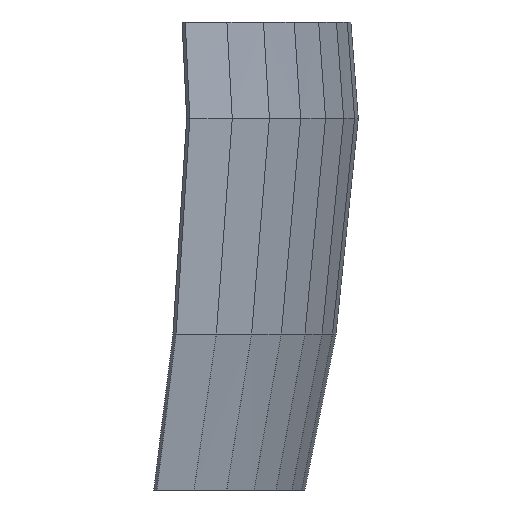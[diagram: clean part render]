
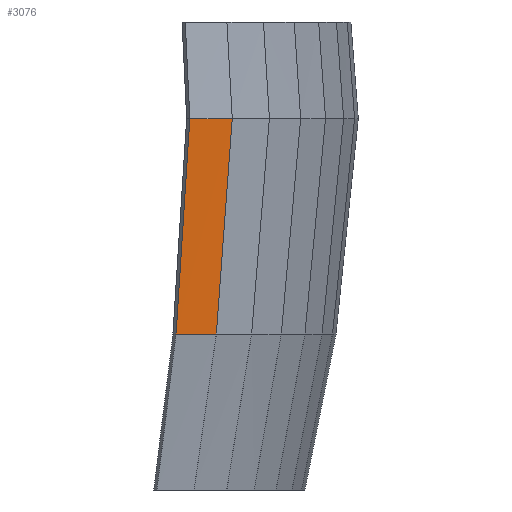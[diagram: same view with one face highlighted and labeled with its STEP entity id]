
A CAD part, left-side view. The second image highlights one B-rep face of the part: STEP entity #3076.
In plain terms, the highlighted free-form (B-spline) face has degree [1, 1] with [2, 2] control points.
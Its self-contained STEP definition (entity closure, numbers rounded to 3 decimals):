
#1018 = VERTEX_POINT('',#1019);
#1019 = CARTESIAN_POINT('',(-178.958,-199.465,175.));
#1032 = B_SPLINE_SURFACE_WITH_KNOTS('',1,1,(
    (#1033,#1034)
    ,(#1035,#1036
    )),.UNSPECIFIED.,.F.,.F.,.F.,(2,2),(2,2),(0.,34.88),(0.,1.
    ),.PIECEWISE_BEZIER_KNOTS.);
#1033 = CARTESIAN_POINT('',(-161.414,-184.505,70.));
#1034 = CARTESIAN_POINT('',(-178.958,-199.465,175.));
#1035 = CARTESIAN_POINT('',(-181.242,-159.456,70.));
#1036 = CARTESIAN_POINT('',(-200.943,-172.385,175.));
#1058 = B_SPLINE_SURFACE_WITH_KNOTS('',1,1,(
    (#1059,#1060)
    ,(#1061,#1062
    )),.UNSPECIFIED.,.F.,.F.,.F.,(2,2),(2,2),(0.,36.403),(0.,1.
    ),.PIECEWISE_BEZIER_KNOTS.);
#1059 = CARTESIAN_POINT('',(-153.97,-223.197,175.));
#1060 = CARTESIAN_POINT('',(-163.027,-235.154,320.));
#1061 = CARTESIAN_POINT('',(-178.958,-199.465,175.));
#1062 = CARTESIAN_POINT('',(-189.485,-210.151,320.));
#1096 = VERTEX_POINT('',#1097);
#1097 = CARTESIAN_POINT('',(-200.943,-172.385,175.));
#1122 = EDGE_CURVE('',#1018,#1096,#1123,.T.);
#1123 = SURFACE_CURVE('',#1124,(#1128,#1135),.PCURVE_S1.);
#1124 = LINE('',#1125,#1126);
#1125 = CARTESIAN_POINT('',(-178.958,-199.465,175.));
#1126 = VECTOR('',#1127,1.);
#1127 = DIRECTION('',(-0.63,0.776,0.));
#1128 = PCURVE('',#1032,#1129);
#1129 = DEFINITIONAL_REPRESENTATION('',(#1130),#1134);
#1130 = LINE('',#1131,#1132);
#1131 = CARTESIAN_POINT('',(0.,1.));
#1132 = VECTOR('',#1133,1.);
#1133 = DIRECTION('',(1.,0.));
#1134 = ( GEOMETRIC_REPRESENTATION_CONTEXT(2) 
PARAMETRIC_REPRESENTATION_CONTEXT() REPRESENTATION_CONTEXT('2D SPACE',''
  ) );
#1135 = PCURVE('',#1136,#1141);
#1136 = B_SPLINE_SURFACE_WITH_KNOTS('',1,1,(
    (#1137,#1138)
    ,(#1139,#1140
    )),.UNSPECIFIED.,.F.,.F.,.F.,(2,2),(2,2),(0.,36.822),(0.,1.
    ),.PIECEWISE_BEZIER_KNOTS.);
#1137 = CARTESIAN_POINT('',(-178.958,-199.465,175.));
#1138 = CARTESIAN_POINT('',(-189.485,-210.151,320.));
#1139 = CARTESIAN_POINT('',(-200.943,-172.385,175.));
#1140 = CARTESIAN_POINT('',(-212.763,-181.62,320.));
#1141 = DEFINITIONAL_REPRESENTATION('',(#1142),#1145);
#1142 = B_SPLINE_CURVE_WITH_KNOTS('',1,(#1143,#1144),.UNSPECIFIED.,.F.,
  .F.,(2,2),(0.,34.88),.PIECEWISE_BEZIER_KNOTS.);
#1143 = CARTESIAN_POINT('',(0.,0.));
#1144 = CARTESIAN_POINT('',(36.822,0.));
#1145 = ( GEOMETRIC_REPRESENTATION_CONTEXT(2) 
PARAMETRIC_REPRESENTATION_CONTEXT() REPRESENTATION_CONTEXT('2D SPACE',''
  ) );
#1215 = B_SPLINE_SURFACE_WITH_KNOTS('',1,1,(
    (#1216,#1217)
    ,(#1218,#1219
    )),.UNSPECIFIED.,.F.,.F.,.F.,(2,2),(2,2),(0.,3.5),(0.,1.),
  .PIECEWISE_BEZIER_KNOTS.);
#1216 = CARTESIAN_POINT('',(-200.943,-172.385,175.));
#1217 = CARTESIAN_POINT('',(-212.763,-181.62,320.));
#1218 = CARTESIAN_POINT('',(-198.185,-170.23,175.));
#1219 = CARTESIAN_POINT('',(-210.005,-179.465,320.));
#3028 = EDGE_CURVE('',#1018,#3029,#3031,.T.);
#3029 = VERTEX_POINT('',#3030);
#3030 = CARTESIAN_POINT('',(-189.485,-210.151,320.));
#3031 = SURFACE_CURVE('',#3032,(#3035,#3042),.PCURVE_S1.);
#3032 = B_SPLINE_CURVE_WITH_KNOTS('',1,(#3033,#3034),.UNSPECIFIED.,.F.,
  .F.,(2,2),(0.,1.),.PIECEWISE_BEZIER_KNOTS.);
#3033 = CARTESIAN_POINT('',(-178.958,-199.465,175.));
#3034 = CARTESIAN_POINT('',(-189.485,-210.151,320.));
#3035 = PCURVE('',#1058,#3036);
#3036 = DEFINITIONAL_REPRESENTATION('',(#3037),#3041);
#3037 = LINE('',#3038,#3039);
#3038 = CARTESIAN_POINT('',(36.403,0.));
#3039 = VECTOR('',#3040,1.);
#3040 = DIRECTION('',(0.,1.));
#3041 = ( GEOMETRIC_REPRESENTATION_CONTEXT(2) 
PARAMETRIC_REPRESENTATION_CONTEXT() REPRESENTATION_CONTEXT('2D SPACE',''
  ) );
#3042 = PCURVE('',#1136,#3043);
#3043 = DEFINITIONAL_REPRESENTATION('',(#3044),#3048);
#3044 = LINE('',#3045,#3046);
#3045 = CARTESIAN_POINT('',(0.,0.));
#3046 = VECTOR('',#3047,1.);
#3047 = DIRECTION('',(0.,1.));
#3048 = ( GEOMETRIC_REPRESENTATION_CONTEXT(2) 
PARAMETRIC_REPRESENTATION_CONTEXT() REPRESENTATION_CONTEXT('2D SPACE',''
  ) );
#3076 = ADVANCED_FACE('',(#3077),#1136,.F.);
#3077 = FACE_BOUND('',#3078,.F.);
#3078 = EDGE_LOOP('',(#3079,#3080,#3102,#3128));
#3079 = ORIENTED_EDGE('',*,*,#1122,.T.);
#3080 = ORIENTED_EDGE('',*,*,#3081,.T.);
#3081 = EDGE_CURVE('',#1096,#3082,#3084,.T.);
#3082 = VERTEX_POINT('',#3083);
#3083 = CARTESIAN_POINT('',(-212.763,-181.62,320.));
#3084 = SURFACE_CURVE('',#3085,(#3088,#3095),.PCURVE_S1.);
#3085 = B_SPLINE_CURVE_WITH_KNOTS('',1,(#3086,#3087),.UNSPECIFIED.,.F.,
  .F.,(2,2),(0.,1.),.PIECEWISE_BEZIER_KNOTS.);
#3086 = CARTESIAN_POINT('',(-200.943,-172.385,175.));
#3087 = CARTESIAN_POINT('',(-212.763,-181.62,320.));
#3088 = PCURVE('',#1136,#3089);
#3089 = DEFINITIONAL_REPRESENTATION('',(#3090),#3094);
#3090 = LINE('',#3091,#3092);
#3091 = CARTESIAN_POINT('',(36.822,0.));
#3092 = VECTOR('',#3093,1.);
#3093 = DIRECTION('',(0.,1.));
#3094 = ( GEOMETRIC_REPRESENTATION_CONTEXT(2) 
PARAMETRIC_REPRESENTATION_CONTEXT() REPRESENTATION_CONTEXT('2D SPACE',''
  ) );
#3095 = PCURVE('',#1215,#3096);
#3096 = DEFINITIONAL_REPRESENTATION('',(#3097),#3101);
#3097 = LINE('',#3098,#3099);
#3098 = CARTESIAN_POINT('',(0.,0.));
#3099 = VECTOR('',#3100,1.);
#3100 = DIRECTION('',(0.,1.));
#3101 = ( GEOMETRIC_REPRESENTATION_CONTEXT(2) 
PARAMETRIC_REPRESENTATION_CONTEXT() REPRESENTATION_CONTEXT('2D SPACE',''
  ) );
#3102 = ORIENTED_EDGE('',*,*,#3103,.F.);
#3103 = EDGE_CURVE('',#3029,#3082,#3104,.T.);
#3104 = SURFACE_CURVE('',#3105,(#3109,#3116),.PCURVE_S1.);
#3105 = LINE('',#3106,#3107);
#3106 = CARTESIAN_POINT('',(-189.485,-210.151,320.));
#3107 = VECTOR('',#3108,1.);
#3108 = DIRECTION('',(-0.632,0.775,0.));
#3109 = PCURVE('',#1136,#3110);
#3110 = DEFINITIONAL_REPRESENTATION('',(#3111),#3115);
#3111 = LINE('',#3112,#3113);
#3112 = CARTESIAN_POINT('',(0.,1.));
#3113 = VECTOR('',#3114,1.);
#3114 = DIRECTION('',(1.,0.));
#3115 = ( GEOMETRIC_REPRESENTATION_CONTEXT(2) 
PARAMETRIC_REPRESENTATION_CONTEXT() REPRESENTATION_CONTEXT('2D SPACE',''
  ) );
#3116 = PCURVE('',#3117,#3122);
#3117 = B_SPLINE_SURFACE_WITH_KNOTS('',1,1,(
    (#3118,#3119)
    ,(#3120,#3121
    )),.UNSPECIFIED.,.F.,.F.,.F.,(2,2),(2,2),(0.,36.822),(0.,1.
    ),.PIECEWISE_BEZIER_KNOTS.);
#3118 = CARTESIAN_POINT('',(-189.485,-210.151,320.));
#3119 = CARTESIAN_POINT('',(-189.485,-206.589,385.));
#3120 = CARTESIAN_POINT('',(-212.763,-181.62,320.));
#3121 = CARTESIAN_POINT('',(-212.763,-178.542,385.));
#3122 = DEFINITIONAL_REPRESENTATION('',(#3123),#3127);
#3123 = LINE('',#3124,#3125);
#3124 = CARTESIAN_POINT('',(0.,0.));
#3125 = VECTOR('',#3126,1.);
#3126 = DIRECTION('',(1.,0.));
#3127 = ( GEOMETRIC_REPRESENTATION_CONTEXT(2) 
PARAMETRIC_REPRESENTATION_CONTEXT() REPRESENTATION_CONTEXT('2D SPACE',''
  ) );
#3128 = ORIENTED_EDGE('',*,*,#3028,.F.);
